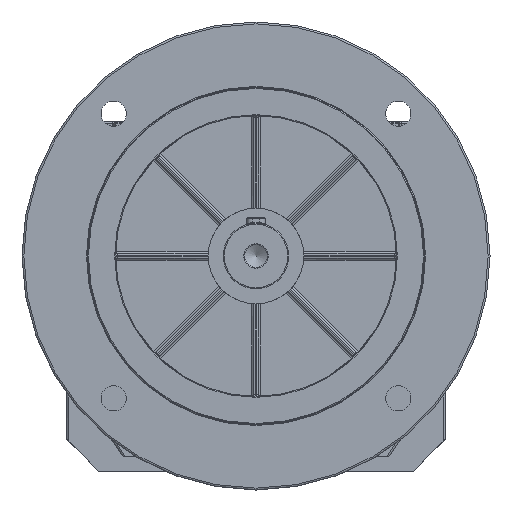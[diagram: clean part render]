
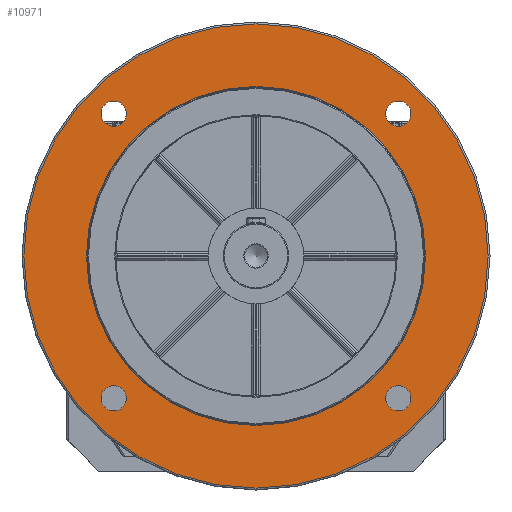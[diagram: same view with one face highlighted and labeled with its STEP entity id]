
A CAD part, front view. The second image highlights one B-rep face of the part: STEP entity #10971.
In plain terms, the highlighted planar face has unit normal (0, -1, 0).
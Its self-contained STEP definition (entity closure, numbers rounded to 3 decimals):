
#4824=CARTESIAN_POINT('',(-69.264,-112.5,191.014));
#4825=VERTEX_POINT('',#4824);
#4826=CARTESIAN_POINT('',(-76.014,-112.5,191.014));
#4827=DIRECTION('',(0.0,1.0,0.0));
#4828=DIRECTION('',(1.0,0.0,0.0));
#4829=AXIS2_PLACEMENT_3D('',#4826,#4827,#4828);
#4830=CIRCLE('',#4829,6.75);
#4831=EDGE_CURVE('',#4825,#4825,#4830,.T.);
#4873=CARTESIAN_POINT('',(-69.264,-112.5,38.986));
#4874=VERTEX_POINT('',#4873);
#4875=CARTESIAN_POINT('',(-76.014,-112.5,38.986));
#4876=DIRECTION('',(0.0,1.0,0.0));
#4877=DIRECTION('',(1.0,0.0,0.0));
#4878=AXIS2_PLACEMENT_3D('',#4875,#4876,#4877);
#4879=CIRCLE('',#4878,6.75);
#4880=EDGE_CURVE('',#4874,#4874,#4879,.T.);
#4922=CARTESIAN_POINT('',(82.764,-112.5,38.986));
#4923=VERTEX_POINT('',#4922);
#4924=CARTESIAN_POINT('',(76.014,-112.5,38.986));
#4925=DIRECTION('',(0.0,1.0,0.0));
#4926=DIRECTION('',(1.0,0.0,0.0));
#4927=AXIS2_PLACEMENT_3D('',#4924,#4925,#4926);
#4928=CIRCLE('',#4927,6.75);
#4929=EDGE_CURVE('',#4923,#4923,#4928,.T.);
#4971=CARTESIAN_POINT('',(82.764,-112.5,191.014));
#4972=VERTEX_POINT('',#4971);
#4973=CARTESIAN_POINT('',(76.014,-112.5,191.014));
#4974=DIRECTION('',(0.0,1.0,0.0));
#4975=DIRECTION('',(1.0,0.0,0.0));
#4976=AXIS2_PLACEMENT_3D('',#4973,#4974,#4975);
#4977=CIRCLE('',#4976,6.75);
#4978=EDGE_CURVE('',#4972,#4972,#4977,.T.);
#10925=CARTESIAN_POINT('',(0.0,-112.5,239.0));
#10926=VERTEX_POINT('',#10925);
#10927=CARTESIAN_POINT('',(0.0,-112.5,115.));
#10928=DIRECTION('',(0.0,1.0,0.0));
#10929=DIRECTION('',(0.0,0.0,-1.0));
#10930=AXIS2_PLACEMENT_3D('',#10927,#10928,#10929);
#10931=CIRCLE('',#10930,124.);
#10932=EDGE_CURVE('',#10926,#10926,#10931,.T.);
#10940=CARTESIAN_POINT('',(0.0,-112.5,222.5));
#10941=DIRECTION('',(0.0,-1.0,0.0));
#10942=DIRECTION('',(0.0,0.0,-1.0));
#10943=AXIS2_PLACEMENT_3D('',#10940,#10941,#10942);
#10944=PLANE('',#10943);
#10945=ORIENTED_EDGE('',*,*,#10932,.F.);
#10946=EDGE_LOOP('',(#10945));
#10947=FACE_OUTER_BOUND('',#10946,.T.);
#10948=ORIENTED_EDGE('',*,*,#4831,.T.);
#10949=EDGE_LOOP('',(#10948));
#10950=FACE_BOUND('',#10949,.T.);
#10951=ORIENTED_EDGE('',*,*,#4880,.T.);
#10952=EDGE_LOOP('',(#10951));
#10953=FACE_BOUND('',#10952,.T.);
#10954=ORIENTED_EDGE('',*,*,#4929,.T.);
#10955=EDGE_LOOP('',(#10954));
#10956=FACE_BOUND('',#10955,.T.);
#10957=ORIENTED_EDGE('',*,*,#4978,.T.);
#10958=EDGE_LOOP('',(#10957));
#10959=FACE_BOUND('',#10958,.T.);
#10960=CARTESIAN_POINT('',(0.,-112.5,205.5));
#10961=VERTEX_POINT('',#10960);
#10962=CARTESIAN_POINT('',(0.0,-112.5,115.));
#10963=DIRECTION('',(0.0,-1.0,0.0));
#10964=DIRECTION('',(0.0,0.0,-1.0));
#10965=AXIS2_PLACEMENT_3D('',#10962,#10963,#10964);
#10966=CIRCLE('',#10965,90.5);
#10967=EDGE_CURVE('',#10961,#10961,#10966,.T.);
#10968=ORIENTED_EDGE('',*,*,#10967,.F.);
#10969=EDGE_LOOP('',(#10968));
#10970=FACE_BOUND('',#10969,.T.);
#10971=ADVANCED_FACE('',(#10947,#10950,#10953,#10956,#10959,#10970),#10944,.T.);
